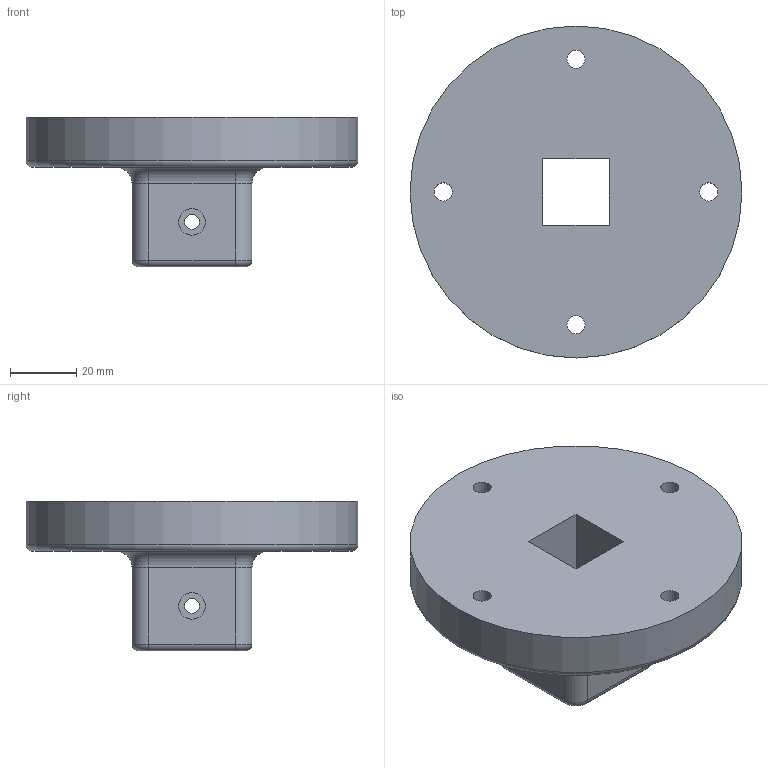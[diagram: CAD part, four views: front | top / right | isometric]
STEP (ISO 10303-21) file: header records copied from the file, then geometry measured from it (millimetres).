
FILE_DESCRIPTION(/* description */ (''),/* implementation_level */ '2;1');
FILE_NAME(/* name */ 'base_petg2.stp',/* time_stamp */ '2025-09-22T18:20:15+02:00',/* author */ ('R5800u'),/* organization */ (''),/* preprocessor_version */ 'ST-DEVELOPER v20',/* originating_system */ 'Autodesk Inventor 2025',/* authorisation */ '');
FILE_SCHEMA (('AUTOMOTIVE_DESIGN { 1 0 10303 214 3 1 1 }'));
Length unit declared in the file: millimetre
Products named in the file (1): base_petg2
Bounding box: 100 x 100 x 45 mm (x, y, z)
Volume: 135482.1 mm3; surface area: 28114.3 mm2
Topology: 1 solids, 1 shells, 57 faces, 121 edges, 75 vertices
Faces by surface type: cylinder 29, plane 19, torus 9
Full cylindrical faces by diameter (mm): 4.5 x4, 5.5 x4, 8 x4, 9 x4, 100 x1
Entity records: 1626 total; most frequent: DIRECTION 305, CARTESIAN_POINT 254, ORIENTED_EDGE 242, AXIS2_PLACEMENT_3D 126, EDGE_CURVE 121, EDGE_LOOP 84, VERTEX_POINT 75, CIRCLE 68
